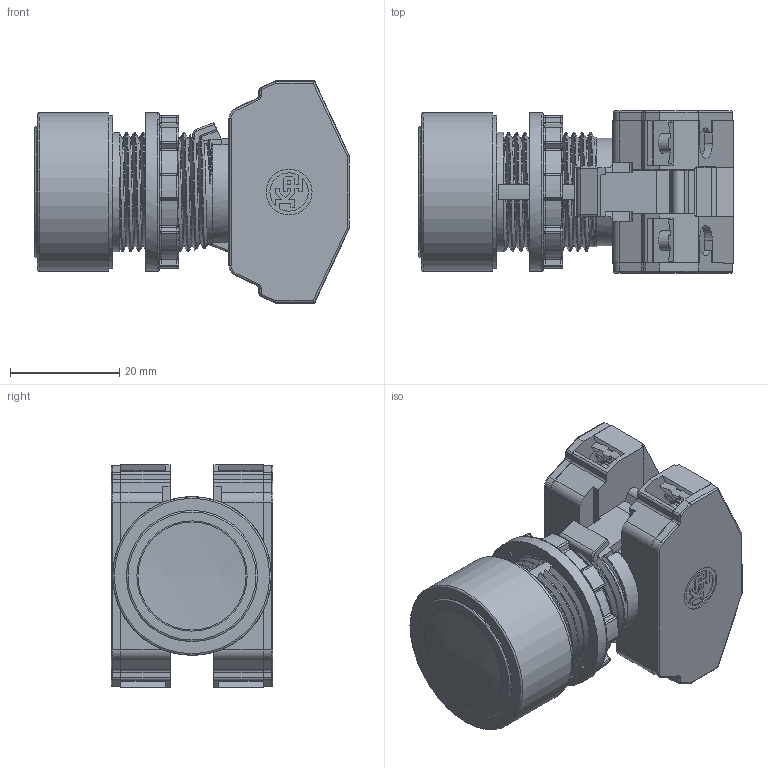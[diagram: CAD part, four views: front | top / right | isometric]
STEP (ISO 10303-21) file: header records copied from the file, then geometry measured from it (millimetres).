
FILE_DESCRIPTION(('Botao Compacto Raso R22 1NA+1NF ou 2NA ou 2NF'),'2;1');
FILE_NAME('K:\Workfolder\Bibl\3DWeb\Serie\C9\kp_c9_c9bn_2Cont_step.stp','2011-04-02T14:58:44',('DIE'),('KAP'),'Autodesk Inventor 2011','Autodesk Inventor 2011','Direitos reservados. Proibido reproducao, cedencia ou revelacao de conteudo a terceiros, salvo com autorizacao. ');
FILE_SCHEMA(('AUTOMOTIVE_DESIGN { 1 0 10303 214 1 1 1 1 }'));
Length unit declared in the file: millimetre
Products named in the file (3): C9BN_2Cont; C9BN; C9AB_2Cont
Assembly tree (2 placements, depth 2):
  C9BN_2Cont
    C9BN
    C9AB_2Cont
Bounding box: 57.5 x 29.6 x 40.6 mm (x, y, z)
Volume: 33202.1 mm3; surface area: 16554.9 mm2
Topology: 3 solids, 7 shells, 1612 faces, 4415 edges, 2749 vertices
Faces by surface type: plane 872, cylinder 450, torus 122, bspline 86, sphere 50, cone 32
Full cylindrical faces by diameter (mm): 2.8 x4, 3 x4, 3.1 x4, 3.3 x4, 3.5 x4, 3.7 x4, 8.4 x1, 21.85 x1, 22 x1, 22.491 x3, 24 x1, 26 x1, 28 x1, 29 x2
Entity records: 56413 total; most frequent: CARTESIAN_POINT 14373, ORIENTED_EDGE 8584, DIRECTION 8316, EDGE_CURVE 4292, AXIS2_PLACEMENT_3D 2782, VECTOR 2752, LINE 2752, VERTEX_POINT 2727
